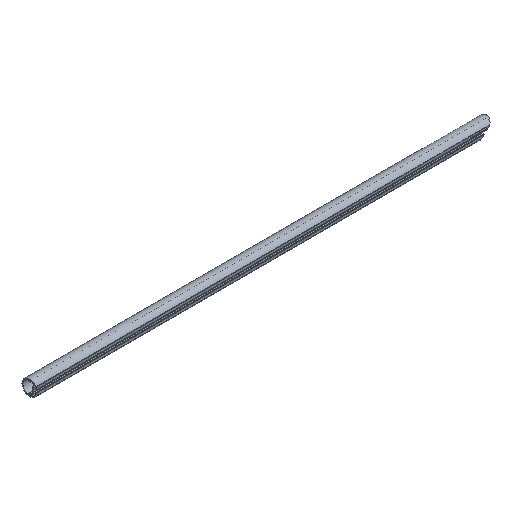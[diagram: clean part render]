
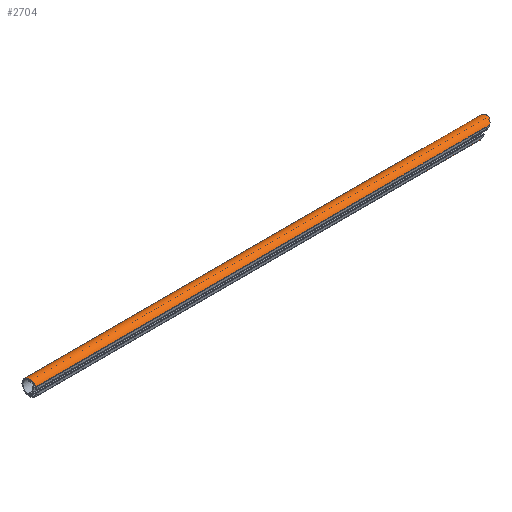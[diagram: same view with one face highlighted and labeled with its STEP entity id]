
A CAD part, isometric view. The second image highlights one B-rep face of the part: STEP entity #2704.
In plain terms, the highlighted cylindrical face has radius 25 mm (diameter 50 mm), a partial arc.
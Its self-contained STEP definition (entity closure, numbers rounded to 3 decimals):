
#1296=ELLIPSE('',#2572,35.355,25.);
#1326=CIRCLE('',#2571,25.);
#1356=ORIENTED_EDGE('',*,*,#1824,.F.);
#1357=ORIENTED_EDGE('',*,*,#1825,.T.);
#1358=ORIENTED_EDGE('',*,*,#1826,.T.);
#1359=ORIENTED_EDGE('',*,*,#1827,.T.);
#1608=VECTOR('',#2044,1.);
#1609=VECTOR('',#2047,1.);
#1674=LINE('',#2319,#1608);
#1675=LINE('',#2323,#1609);
#1740=VERTEX_POINT('',#2317);
#1741=VERTEX_POINT('',#2318);
#1742=VERTEX_POINT('',#2320);
#1743=VERTEX_POINT('',#2322);
#1824=EDGE_CURVE('',#1740,#1741,#1674,.T.);
#1825=EDGE_CURVE('',#1740,#1742,#1326,.T.);
#1826=EDGE_CURVE('',#1742,#1743,#1675,.T.);
#1827=EDGE_CURVE('',#1743,#1741,#1296,.T.);
#1950=EDGE_LOOP('',(#1356,#1357,#1358,#1359));
#1996=FACE_BOUND('',#1950,.T.);
#2042=DIRECTION('',(1.,0.,0.));
#2043=DIRECTION('',(0.,-0.86,-0.51));
#2044=DIRECTION('',(1463.742,0.,0.));
#2045=DIRECTION('',(1.,0.,0.));
#2046=DIRECTION('',(0.,-21.5,-12.757));
#2047=DIRECTION('',(1489.257,0.,0.));
#2048=DIRECTION('',(-0.707,0.,0.707));
#2049=DIRECTION('',(-0.707,0.,-0.707));
#2316=CARTESIAN_POINT('',(0.,-25.,25.));
#2317=CARTESIAN_POINT('',(0.,-46.5,12.243));
#2318=CARTESIAN_POINT('',(1463.742,-46.5,12.243));
#2319=CARTESIAN_POINT('',(0.,-46.5,12.243));
#2320=CARTESIAN_POINT('',(0.,-46.5,37.757));
#2321=CARTESIAN_POINT('',(0.,-25.,25.));
#2322=CARTESIAN_POINT('',(1489.257,-46.5,37.757));
#2323=CARTESIAN_POINT('',(0.,-46.5,37.757));
#2324=CARTESIAN_POINT('',(1476.5,-25.,25.));
#2570=AXIS2_PLACEMENT_3D('',#2316,#2042,#2043);
#2571=AXIS2_PLACEMENT_3D('',#2321,#2045,#2046);
#2572=AXIS2_PLACEMENT_3D('',#2324,#2048,#2049);
#2674=CYLINDRICAL_SURFACE('',#2570,25.);
#2704=ADVANCED_FACE('',(#1996),#2674,.T.);
